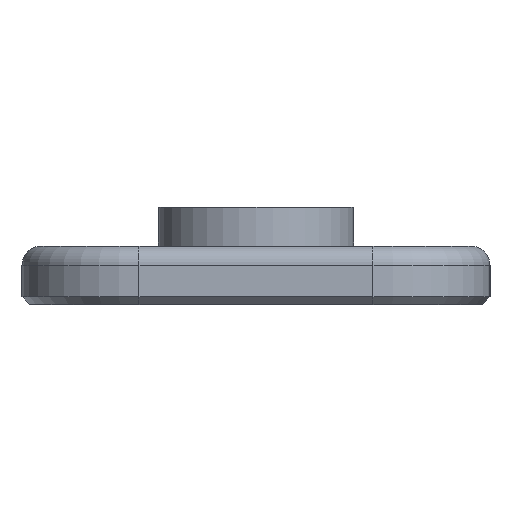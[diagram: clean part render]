
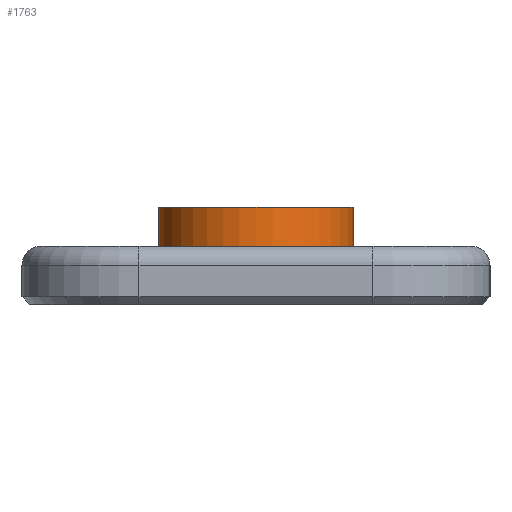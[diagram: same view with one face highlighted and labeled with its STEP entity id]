
A CAD part, left-side view. The second image highlights one B-rep face of the part: STEP entity #1763.
In plain terms, the highlighted cylindrical face has radius 2.5 mm (diameter 5 mm), a full revolution.
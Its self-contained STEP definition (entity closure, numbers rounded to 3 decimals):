
#362 = PLANE('',#363);
#363 = AXIS2_PLACEMENT_3D('',#364,#365,#366);
#364 = CARTESIAN_POINT('',(0.,0.,1.5));
#365 = DIRECTION('',(0.,0.,1.));
#366 = DIRECTION('',(1.,0.,-0.));
#1110 = EDGE_CURVE('',#1111,#1111,#1113,.T.);
#1111 = VERTEX_POINT('',#1112);
#1112 = CARTESIAN_POINT('',(-77.5,0.,1.5));
#1113 = SURFACE_CURVE('',#1114,(#1119,#1126),.PCURVE_S1.);
#1114 = CIRCLE('',#1115,2.5);
#1115 = AXIS2_PLACEMENT_3D('',#1116,#1117,#1118);
#1116 = CARTESIAN_POINT('',(-80.,0.,1.5));
#1117 = DIRECTION('',(0.,0.,1.));
#1118 = DIRECTION('',(1.,0.,-0.));
#1119 = PCURVE('',#362,#1120);
#1120 = DEFINITIONAL_REPRESENTATION('',(#1121),#1125);
#1121 = CIRCLE('',#1122,2.5);
#1122 = AXIS2_PLACEMENT_2D('',#1123,#1124);
#1123 = CARTESIAN_POINT('',(-80.,0.));
#1124 = DIRECTION('',(1.,0.));
#1125 = ( GEOMETRIC_REPRESENTATION_CONTEXT(2) 
PARAMETRIC_REPRESENTATION_CONTEXT() REPRESENTATION_CONTEXT('2D SPACE',''
  ) );
#1126 = PCURVE('',#1127,#1132);
#1127 = CYLINDRICAL_SURFACE('',#1128,2.5);
#1128 = AXIS2_PLACEMENT_3D('',#1129,#1130,#1131);
#1129 = CARTESIAN_POINT('',(-80.,0.,1.49));
#1130 = DIRECTION('',(0.,0.,1.));
#1131 = DIRECTION('',(1.,0.,-0.));
#1132 = DEFINITIONAL_REPRESENTATION('',(#1133),#1137);
#1133 = LINE('',#1134,#1135);
#1134 = CARTESIAN_POINT('',(0.,0.01));
#1135 = VECTOR('',#1136,1.);
#1136 = DIRECTION('',(1.,0.));
#1137 = ( GEOMETRIC_REPRESENTATION_CONTEXT(2) 
PARAMETRIC_REPRESENTATION_CONTEXT() REPRESENTATION_CONTEXT('2D SPACE',''
  ) );
#1546 = PLANE('',#1547);
#1547 = AXIS2_PLACEMENT_3D('',#1548,#1549,#1550);
#1548 = CARTESIAN_POINT('',(-80.,0.,2.49));
#1549 = DIRECTION('',(0.,0.,1.));
#1550 = DIRECTION('',(1.,0.,-0.));
#1763 = ADVANCED_FACE('',(#1764),#1127,.T.);
#1764 = FACE_BOUND('',#1765,.T.);
#1765 = EDGE_LOOP('',(#1766,#1789,#1811,#1812));
#1766 = ORIENTED_EDGE('',*,*,#1767,.T.);
#1767 = EDGE_CURVE('',#1111,#1768,#1770,.T.);
#1768 = VERTEX_POINT('',#1769);
#1769 = CARTESIAN_POINT('',(-77.5,0.,2.49));
#1770 = SEAM_CURVE('',#1771,(#1775,#1782),.PCURVE_S1.);
#1771 = LINE('',#1772,#1773);
#1772 = CARTESIAN_POINT('',(-77.5,0.,1.49));
#1773 = VECTOR('',#1774,1.);
#1774 = DIRECTION('',(0.,0.,1.));
#1775 = PCURVE('',#1127,#1776);
#1776 = DEFINITIONAL_REPRESENTATION('',(#1777),#1781);
#1777 = LINE('',#1778,#1779);
#1778 = CARTESIAN_POINT('',(6.283,-0.));
#1779 = VECTOR('',#1780,1.);
#1780 = DIRECTION('',(0.,1.));
#1781 = ( GEOMETRIC_REPRESENTATION_CONTEXT(2) 
PARAMETRIC_REPRESENTATION_CONTEXT() REPRESENTATION_CONTEXT('2D SPACE',''
  ) );
#1782 = PCURVE('',#1127,#1783);
#1783 = DEFINITIONAL_REPRESENTATION('',(#1784),#1788);
#1784 = LINE('',#1785,#1786);
#1785 = CARTESIAN_POINT('',(0.,-0.));
#1786 = VECTOR('',#1787,1.);
#1787 = DIRECTION('',(0.,1.));
#1788 = ( GEOMETRIC_REPRESENTATION_CONTEXT(2) 
PARAMETRIC_REPRESENTATION_CONTEXT() REPRESENTATION_CONTEXT('2D SPACE',''
  ) );
#1789 = ORIENTED_EDGE('',*,*,#1790,.F.);
#1790 = EDGE_CURVE('',#1768,#1768,#1791,.T.);
#1791 = SURFACE_CURVE('',#1792,(#1797,#1804),.PCURVE_S1.);
#1792 = CIRCLE('',#1793,2.5);
#1793 = AXIS2_PLACEMENT_3D('',#1794,#1795,#1796);
#1794 = CARTESIAN_POINT('',(-80.,0.,2.49));
#1795 = DIRECTION('',(0.,0.,1.));
#1796 = DIRECTION('',(1.,0.,-0.));
#1797 = PCURVE('',#1127,#1798);
#1798 = DEFINITIONAL_REPRESENTATION('',(#1799),#1803);
#1799 = LINE('',#1800,#1801);
#1800 = CARTESIAN_POINT('',(0.,1.));
#1801 = VECTOR('',#1802,1.);
#1802 = DIRECTION('',(1.,0.));
#1803 = ( GEOMETRIC_REPRESENTATION_CONTEXT(2) 
PARAMETRIC_REPRESENTATION_CONTEXT() REPRESENTATION_CONTEXT('2D SPACE',''
  ) );
#1804 = PCURVE('',#1546,#1805);
#1805 = DEFINITIONAL_REPRESENTATION('',(#1806),#1810);
#1806 = CIRCLE('',#1807,2.5);
#1807 = AXIS2_PLACEMENT_2D('',#1808,#1809);
#1808 = CARTESIAN_POINT('',(0.,0.));
#1809 = DIRECTION('',(1.,0.));
#1810 = ( GEOMETRIC_REPRESENTATION_CONTEXT(2) 
PARAMETRIC_REPRESENTATION_CONTEXT() REPRESENTATION_CONTEXT('2D SPACE',''
  ) );
#1811 = ORIENTED_EDGE('',*,*,#1767,.F.);
#1812 = ORIENTED_EDGE('',*,*,#1110,.T.);
